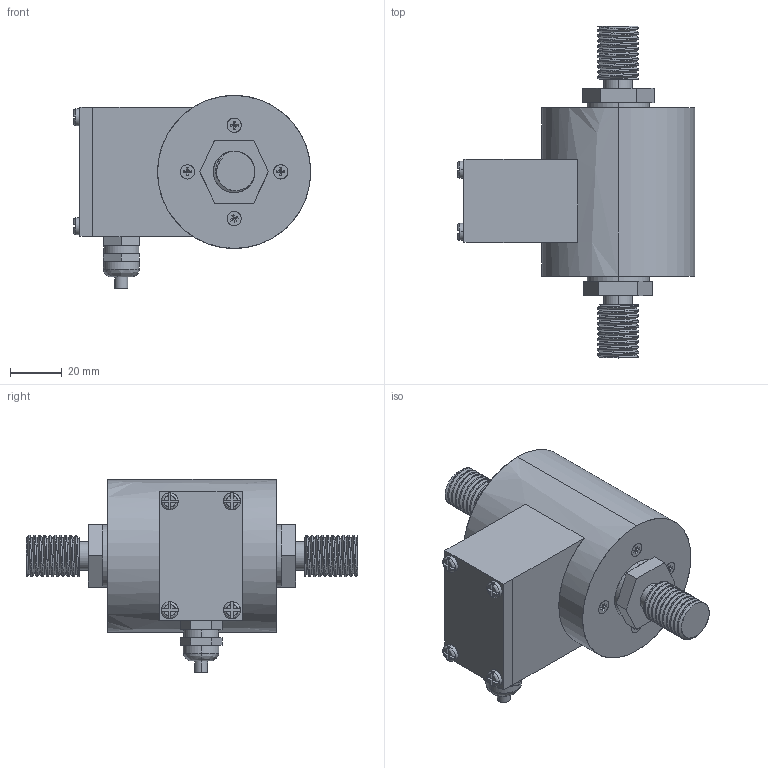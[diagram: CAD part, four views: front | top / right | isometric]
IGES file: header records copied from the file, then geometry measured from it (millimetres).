
Start section: SolidWorks IGES file using analytic representation for surfaces
Global section: file name: O:\16-Entwicklung\Projekte\03_Kraftsensoren\0222_KT1101\01_Mechanik & Gehäuse\01_Solid Works\01_Outline 3D files\KT1101_K_10KN.IGS; native system: SolidWorks 2012; preprocessor: SolidWorks 2012; author: AndreB; date: 140423.160950; units: metre
Bounding box: 91.5 x 128 x 74.5 mm (x, y, z)
Surface area: 30071.4 mm2 (no closed solid volume)
Topology: 0 solids, 0 shells, 267 faces, 4682 edges, 4682 vertices
Faces by surface type: bspline 195, revolution 72
